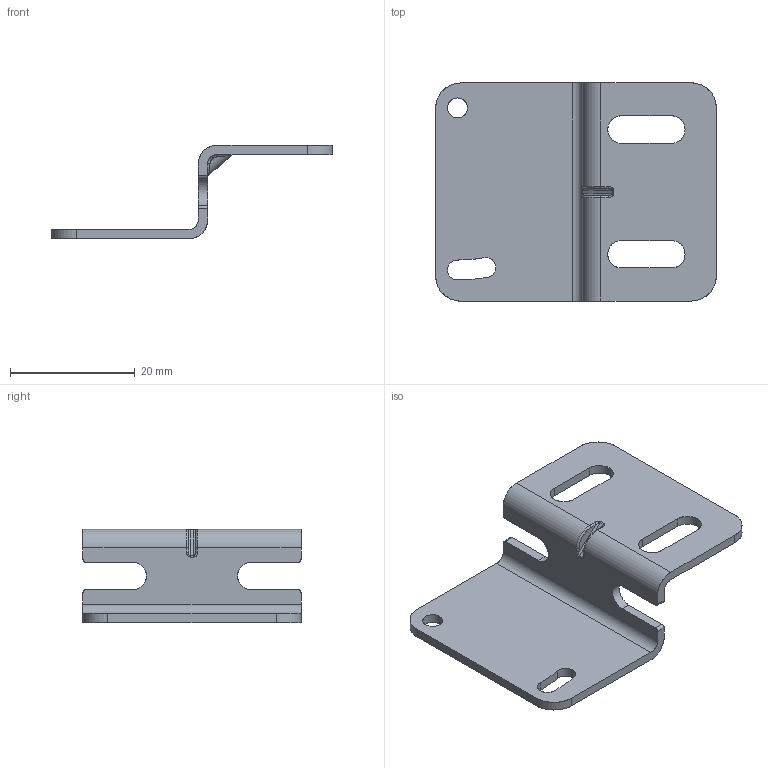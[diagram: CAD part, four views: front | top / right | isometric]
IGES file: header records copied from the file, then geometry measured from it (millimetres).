
Start section: SolidWorks IGES file using analytic representation for surfaces
Global section: file name: C:\Users\10118109\Desktop\器配季辑\1瞒 犁累己_2瞒 累诀_荐沥 器窃\喊概前\BYD BRACK B\BYD BRACKET B.IGS; native system: SolidWorks 2018; preprocessor: SolidWorks 2018; author: 10118109; date: 190701.161442; units: inch
Bounding box: 45 x 35 x 15 mm (x, y, z)
Surface area: 3961.7 mm2 (no closed solid volume)
Topology: 0 solids, 0 shells, 77 faces, 675 edges, 674 vertices
Faces by surface type: bspline 40, revolution 37
